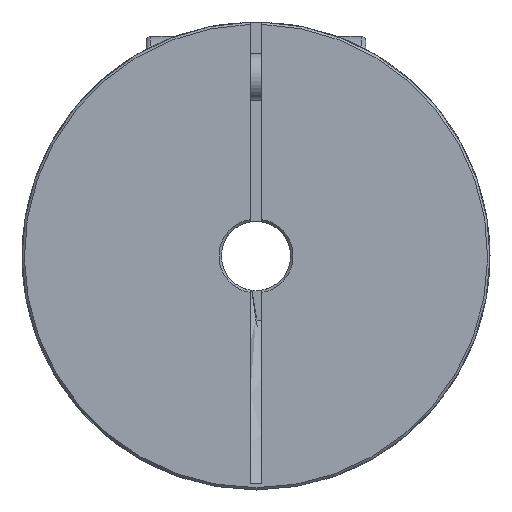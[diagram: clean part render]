
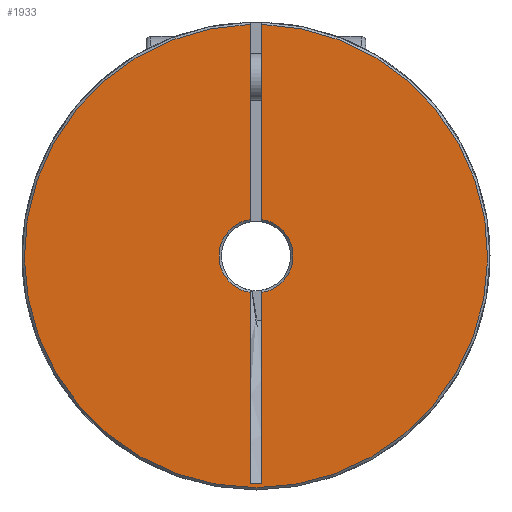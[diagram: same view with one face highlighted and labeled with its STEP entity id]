
A CAD part, left-side view. The second image highlights one B-rep face of the part: STEP entity #1933.
In plain terms, the highlighted planar face has unit normal (-1, 0, 0).
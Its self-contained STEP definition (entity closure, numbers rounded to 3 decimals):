
#128=LINE('',#3130,#210);
#131=LINE('',#3141,#213);
#134=LINE('',#3168,#216);
#139=LINE('',#3190,#221);
#140=LINE('',#3198,#222);
#210=VECTOR('',#2417,1000.);
#213=VECTOR('',#2422,1000.);
#216=VECTOR('',#2431,1000.);
#221=VECTOR('',#2440,1000.);
#222=VECTOR('',#2443,1000.);
#371=ORIENTED_EDGE('',*,*,#833,.T.);
#372=ORIENTED_EDGE('',*,*,#788,.F.);
#373=ORIENTED_EDGE('',*,*,#796,.F.);
#374=ORIENTED_EDGE('',*,*,#806,.T.);
#375=ORIENTED_EDGE('',*,*,#834,.T.);
#376=ORIENTED_EDGE('',*,*,#804,.T.);
#377=ORIENTED_EDGE('',*,*,#835,.F.);
#378=ORIENTED_EDGE('',*,*,#784,.F.);
#784=EDGE_CURVE('',#1019,#1020,#128,.T.);
#788=EDGE_CURVE('',#1023,#1024,#131,.T.);
#796=EDGE_CURVE('',#1031,#1023,#134,.T.);
#804=EDGE_CURVE('',#1034,#1038,#139,.T.);
#806=EDGE_CURVE('',#1031,#1039,#140,.T.);
#833=EDGE_CURVE('',#1019,#1024,#1201,.T.);
#834=EDGE_CURVE('',#1039,#1034,#1202,.T.);
#835=EDGE_CURVE('',#1020,#1038,#1203,.T.);
#1019=VERTEX_POINT('',#3129);
#1020=VERTEX_POINT('',#3131);
#1023=VERTEX_POINT('',#3142);
#1024=VERTEX_POINT('',#3143);
#1031=VERTEX_POINT('',#3167);
#1034=VERTEX_POINT('',#3178);
#1038=VERTEX_POINT('',#3189);
#1039=VERTEX_POINT('',#3196);
#1201=CIRCLE('',#2122,3.2);
#1202=CIRCLE('',#2123,3.2);
#1203=CIRCLE('',#2124,20.05);
#1344=EDGE_LOOP('',(#371,#372,#373,#374,#375,#376,#377,#378));
#1602=FACE_BOUND('',#1344,.T.);
#1841=PLANE('',#2121);
#1933=ADVANCED_FACE('',(#1602),#1841,.F.);
#2121=AXIS2_PLACEMENT_3D('',#3333,#2491,#2492);
#2122=AXIS2_PLACEMENT_3D('',#3334,#2493,#2494);
#2123=AXIS2_PLACEMENT_3D('',#3335,#2495,#2496);
#2124=AXIS2_PLACEMENT_3D('',#3336,#2497,#2498);
#2417=DIRECTION('',(0.,0.,1.));
#2422=DIRECTION('',(0.,0.,1.));
#2431=DIRECTION('',(0.,-1.,0.));
#2440=DIRECTION('',(0.,0.,1.));
#2443=DIRECTION('',(0.,0.,1.));
#2491=DIRECTION('',(1.,0.,0.));
#2492=DIRECTION('',(0.,0.,-1.));
#2493=DIRECTION('',(1.,0.,0.));
#2494=DIRECTION('',(0.,0.,-1.));
#2495=DIRECTION('',(1.,0.,0.));
#2496=DIRECTION('',(0.,0.,-1.));
#2497=DIRECTION('',(1.,0.,0.));
#2498=DIRECTION('',(0.,0.,-1.));
#3129=CARTESIAN_POINT('',(0.,-0.5,3.161));
#3130=CARTESIAN_POINT('',(0.,-0.5,-19.712));
#3131=CARTESIAN_POINT('',(0.,-0.5,20.044));
#3141=CARTESIAN_POINT('',(0.,-0.5,-19.712));
#3142=CARTESIAN_POINT('',(0.,-0.5,-19.712));
#3143=CARTESIAN_POINT('',(0.,-0.5,-3.161));
#3167=CARTESIAN_POINT('',(0.,0.5,-19.712));
#3168=CARTESIAN_POINT('',(0.,0.5,-19.712));
#3178=CARTESIAN_POINT('',(0.,0.5,3.161));
#3189=CARTESIAN_POINT('',(0.,0.5,20.044));
#3190=CARTESIAN_POINT('',(0.,0.5,-19.712));
#3196=CARTESIAN_POINT('',(0.,0.5,-3.161));
#3198=CARTESIAN_POINT('',(0.,0.5,-19.712));
#3333=CARTESIAN_POINT('',(0.,0.,0.));
#3334=CARTESIAN_POINT('',(0.,0.,0.));
#3335=CARTESIAN_POINT('',(0.,0.,0.));
#3336=CARTESIAN_POINT('',(0.,0.,0.));
